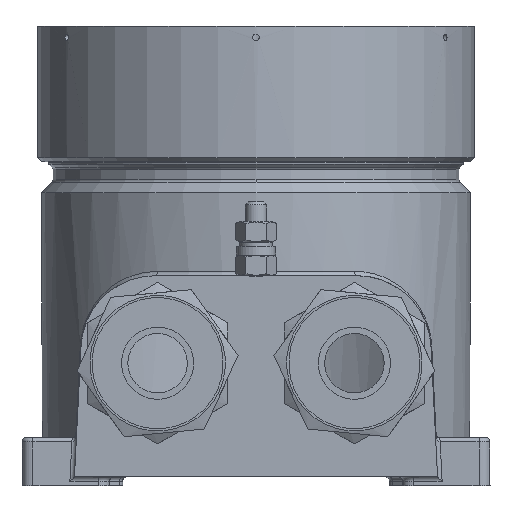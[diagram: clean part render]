
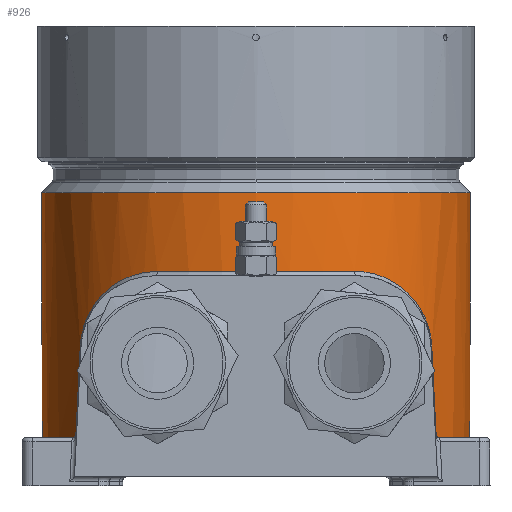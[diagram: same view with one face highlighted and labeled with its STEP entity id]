
A CAD part, left-side view. The second image highlights one B-rep face of the part: STEP entity #926.
In plain terms, the highlighted cylindrical face has radius 49 mm (diameter 98 mm), a full revolution.
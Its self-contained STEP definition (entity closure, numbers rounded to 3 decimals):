
#926=ADVANCED_FACE('',(#9071,#9073),#9075,.T.);
#9071=FACE_BOUND('',#9072,.T.);
#9072=EDGE_LOOP('',(#16522,#16523,#16524,#16525,#16526,#16527,#16528,#16529,#16530,
#16531,#16532));
#9073=FACE_OUTER_BOUND('',#9074,.T.);
#9074=EDGE_LOOP('',(#16533));
#9075=CYLINDRICAL_SURFACE('',#9076,49.);
#9076=AXIS2_PLACEMENT_3D('',#9077,#9078,#9079);
#9077=CARTESIAN_POINT('',(0.,0.,8.));
#9078=DIRECTION('',(0.,0.,1.));
#9079=DIRECTION('',(-1.,0.,0.));
#16522=ORIENTED_EDGE('',*,*,#20413,.F.);
#16523=ORIENTED_EDGE('',*,*,#20414,.T.);
#16524=ORIENTED_EDGE('',*,*,#20415,.F.);
#16525=ORIENTED_EDGE('',*,*,#20185,.F.);
#16526=ORIENTED_EDGE('',*,*,#20300,.F.);
#16527=ORIENTED_EDGE('',*,*,#20299,.F.);
#16528=ORIENTED_EDGE('',*,*,#20296,.F.);
#16529=ORIENTED_EDGE('',*,*,#20416,.F.);
#16530=ORIENTED_EDGE('',*,*,#20417,.T.);
#16531=ORIENTED_EDGE('',*,*,#20418,.F.);
#16532=ORIENTED_EDGE('',*,*,#20419,.T.);
#16533=ORIENTED_EDGE('',*,*,#20420,.T.);
#20185=EDGE_CURVE('',#22333,#22334,#22335,.T.);
#20296=EDGE_CURVE('',#22518,#22519,#22520,.T.);
#20299=EDGE_CURVE('',#22519,#22523,#22524,.F.);
#20300=EDGE_CURVE('',#22523,#22333,#22525,.F.);
#20413=EDGE_CURVE('',#22715,#22716,#22717,.F.);
#20414=EDGE_CURVE('',#22715,#22718,#22719,.T.);
#20415=EDGE_CURVE('',#22334,#22718,#22720,.F.);
#20416=EDGE_CURVE('',#22721,#22518,#22722,.F.);
#20417=EDGE_CURVE('',#22721,#22723,#22724,.T.);
#20418=EDGE_CURVE('',#22725,#22723,#22726,.F.);
#20419=EDGE_CURVE('',#22725,#22716,#22727,.T.);
#20420=EDGE_CURVE('',#22728,#22728,#22729,.F.);
#22333=VERTEX_POINT('',#26525);
#22334=VERTEX_POINT('',#26526);
#22335=B_SPLINE_CURVE_WITH_KNOTS('',3,
(#26527,#26528,#26529,#26530,#26531,#26532,#26533,#26534,#26535,#26536,#26537,#26538,
#26539,#26540,#26541,#26542,#26543,#26544,#26545,#26546,#26547),
.UNSPECIFIED.,.F.,.F.,
(4,1,1,1,1,1,1,1,1,1,1,1,1,1,1,1,1,1,4),
(0.,0.091,0.177,0.256,0.326,0.392,
0.455,0.516,0.573,0.628,0.678,
0.724,0.769,0.814,0.856,0.896,
0.938,0.972,1.),
.UNSPECIFIED.);
#22518=VERTEX_POINT('',#27449);
#22519=VERTEX_POINT('',#27450);
#22520=B_SPLINE_CURVE_WITH_KNOTS('',3,
(#27451,#27452,#27453,#27454,#27455,#27456,#27457,#27458,#27459,#27460,#27461,#27462,
#27463,#27464,#27465,#27466,#27467,#27468,#27469,#27470,#27471,#27472,#27473,#27474,
#27475,#27476,#27477),
.UNSPECIFIED.,.F.,.F.,
(4,1,1,1,1,1,1,1,1,1,1,1,1,1,1,1,1,1,1,1,1,1,1,1,4),
(0.,0.009,0.018,0.026,0.034,
0.045,0.061,0.084,0.114,0.152,
0.192,0.237,0.283,0.332,0.386,
0.442,0.504,0.569,0.637,0.708,
0.779,0.846,0.919,0.969,1.),
.UNSPECIFIED.);
#22523=VERTEX_POINT('',#27489);
#22524=CIRCLE('',#27490,49.);
#22525=CIRCLE('',#27494,49.);
#22715=VERTEX_POINT('',#28185);
#22716=VERTEX_POINT('',#28186);
#22717=CIRCLE('',#28187,49.);
#22718=VERTEX_POINT('',#28191);
#22719=CIRCLE('',#28192,49.);
#22720=(BOUNDED_CURVE()B_SPLINE_CURVE(3,
(#28196,#28197,#28198,#28199),
.UNSPECIFIED.,.F.,.F.)B_SPLINE_CURVE_WITH_KNOTS((4,4),
(0.,1.),
.UNSPECIFIED.)CURVE()GEOMETRIC_REPRESENTATION_ITEM()RATIONAL_B_SPLINE_CURVE((1.,
1.,1.,1.))REPRESENTATION_ITEM(''));
#22721=VERTEX_POINT('',#28200);
#22722=(BOUNDED_CURVE()B_SPLINE_CURVE(3,
(#28201,#28202,#28203,#28204),
.UNSPECIFIED.,.F.,.F.)B_SPLINE_CURVE_WITH_KNOTS((4,4),
(0.,1.),
.UNSPECIFIED.)CURVE()GEOMETRIC_REPRESENTATION_ITEM()RATIONAL_B_SPLINE_CURVE((1.,
1.,1.,1.))REPRESENTATION_ITEM(''));
#22723=VERTEX_POINT('',#28205);
#22724=CIRCLE('',#28206,49.);
#22725=VERTEX_POINT('',#28210);
#22726=CIRCLE('',#28211,49.);
#22727=CIRCLE('',#28215,49.);
#22728=VERTEX_POINT('',#28219);
#22729=CIRCLE('',#28220,49.);
#26525=CARTESIAN_POINT('',(-43.493,22.568,47.));
#26526=CARTESIAN_POINT('',(-28.037,40.186,29.899));
#26527=CARTESIAN_POINT('',(-43.493,22.568,47.));
#26528=CARTESIAN_POINT('',(-43.054,23.416,47.));
#26529=CARTESIAN_POINT('',(-42.151,25.037,46.879));
#26530=CARTESIAN_POINT('',(-40.74,27.264,46.397));
#26531=CARTESIAN_POINT('',(-39.377,29.19,45.722));
#26532=CARTESIAN_POINT('',(-38.089,30.846,44.927));
#26533=CARTESIAN_POINT('',(-36.872,32.289,44.051));
#26534=CARTESIAN_POINT('',(-35.702,33.576,43.095));
#26535=CARTESIAN_POINT('',(-34.586,34.721,42.076));
#26536=CARTESIAN_POINT('',(-33.534,35.737,41.006));
#26537=CARTESIAN_POINT('',(-32.569,36.617,39.915));
#26538=CARTESIAN_POINT('',(-31.705,37.365,38.827));
#26539=CARTESIAN_POINT('',(-30.93,38.009,37.734));
#26540=CARTESIAN_POINT('',(-30.23,38.566,36.618));
#26541=CARTESIAN_POINT('',(-29.605,39.048,35.461));
#26542=CARTESIAN_POINT('',(-29.076,39.443,34.293));
#26543=CARTESIAN_POINT('',(-28.639,39.76,33.094));
#26544=CARTESIAN_POINT('',(-28.322,39.986,31.927));
#26545=CARTESIAN_POINT('',(-28.127,40.124,30.85));
#26546=CARTESIAN_POINT('',(-28.057,40.172,30.193));
#26547=CARTESIAN_POINT('',(-28.037,40.186,29.899));
#27449=CARTESIAN_POINT('',(-28.037,-40.186,29.899));
#27450=CARTESIAN_POINT('',(-43.493,-22.568,47.));
#27451=CARTESIAN_POINT('',(-28.037,-40.186,29.899));
#27452=CARTESIAN_POINT('',(-28.047,-40.179,29.999));
#27453=CARTESIAN_POINT('',(-28.064,-40.167,30.187));
#27454=CARTESIAN_POINT('',(-28.09,-40.149,30.458));
#27455=CARTESIAN_POINT('',(-28.119,-40.129,30.719));
#27456=CARTESIAN_POINT('',(-28.161,-40.099,31.006));
#27457=CARTESIAN_POINT('',(-28.222,-40.056,31.369));
#27458=CARTESIAN_POINT('',(-28.325,-39.984,31.883));
#27459=CARTESIAN_POINT('',(-28.497,-39.862,32.583));
#27460=CARTESIAN_POINT('',(-28.776,-39.661,33.487));
#27461=CARTESIAN_POINT('',(-29.175,-39.369,34.525));
#27462=CARTESIAN_POINT('',(-29.697,-38.978,35.642));
#27463=CARTESIAN_POINT('',(-30.326,-38.491,36.781));
#27464=CARTESIAN_POINT('',(-31.054,-37.908,37.92));
#27465=CARTESIAN_POINT('',(-31.881,-37.216,39.06));
#27466=CARTESIAN_POINT('',(-32.802,-36.409,40.191));
#27467=CARTESIAN_POINT('',(-33.828,-35.46,41.318));
#27468=CARTESIAN_POINT('',(-34.946,-34.361,42.419));
#27469=CARTESIAN_POINT('',(-36.15,-33.096,43.477));
#27470=CARTESIAN_POINT('',(-37.405,-31.673,44.451));
#27471=CARTESIAN_POINT('',(-38.679,-30.106,45.309));
#27472=CARTESIAN_POINT('',(-39.916,-28.446,46.005));
#27473=CARTESIAN_POINT('',(-41.124,-26.672,46.54));
#27474=CARTESIAN_POINT('',(-42.158,-24.999,46.856));
#27475=CARTESIAN_POINT('',(-42.947,-23.603,46.981));
#27476=CARTESIAN_POINT('',(-43.344,-22.855,47.));
#27477=CARTESIAN_POINT('',(-43.493,-22.568,47.));
#27489=CARTESIAN_POINT('',(-49.,0.,47.));
#27490=AXIS2_PLACEMENT_3D('',#27491,#27492,#27493);
#27491=CARTESIAN_POINT('',(0.,0.,47.));
#27492=DIRECTION('',(0.,0.,1.));
#27493=DIRECTION('',(-1.,0.,0.));
#27494=AXIS2_PLACEMENT_3D('',#27495,#27496,#27497);
#27495=CARTESIAN_POINT('',(0.,0.,47.));
#27496=DIRECTION('',(0.,0.,1.));
#27497=DIRECTION('',(-0.888,0.461,0.));
#28185=CARTESIAN_POINT('',(27.695,40.423,9.));
#28186=CARTESIAN_POINT('',(40.423,27.695,9.));
#28187=AXIS2_PLACEMENT_3D('',#28188,#28189,#28190);
#28188=CARTESIAN_POINT('',(0.,0.,9.));
#28189=DIRECTION('',(0.,0.,1.));
#28190=DIRECTION('',(0.825,0.565,0.));
#28191=CARTESIAN_POINT('',(-26.509,41.21,9.));
#28192=AXIS2_PLACEMENT_3D('',#28193,#28194,#28195);
#28193=CARTESIAN_POINT('',(0.,0.,9.));
#28194=DIRECTION('',(0.,0.,1.));
#28195=DIRECTION('',(0.565,0.825,0.));
#28196=CARTESIAN_POINT('',(-26.509,41.21,9.));
#28197=CARTESIAN_POINT('',(-27.025,40.878,15.771));
#28198=CARTESIAN_POINT('',(-27.534,40.537,22.738));
#28199=CARTESIAN_POINT('',(-28.037,40.186,29.899));
#28200=CARTESIAN_POINT('',(-26.509,-41.21,9.));
#28201=CARTESIAN_POINT('',(-28.037,-40.186,29.899));
#28202=CARTESIAN_POINT('',(-27.534,-40.537,22.738));
#28203=CARTESIAN_POINT('',(-27.025,-40.878,15.771));
#28204=CARTESIAN_POINT('',(-26.509,-41.21,9.));
#28205=CARTESIAN_POINT('',(27.695,-40.423,9.));
#28206=AXIS2_PLACEMENT_3D('',#28207,#28208,#28209);
#28207=CARTESIAN_POINT('',(0.,0.,9.));
#28208=DIRECTION('',(0.,0.,1.));
#28209=DIRECTION('',(-0.541,-0.841,0.));
#28210=CARTESIAN_POINT('',(40.423,-27.695,9.));
#28211=AXIS2_PLACEMENT_3D('',#28212,#28213,#28214);
#28212=CARTESIAN_POINT('',(0.,0.,9.));
#28213=DIRECTION('',(0.,0.,1.));
#28214=DIRECTION('',(0.565,-0.825,0.));
#28215=AXIS2_PLACEMENT_3D('',#28216,#28217,#28218);
#28216=CARTESIAN_POINT('',(0.,0.,9.));
#28217=DIRECTION('',(0.,0.,1.));
#28218=DIRECTION('',(0.825,-0.565,0.));
#28219=CARTESIAN_POINT('',(-49.,0.,65.));
#28220=AXIS2_PLACEMENT_3D('',#28221,#28222,#28223);
#28221=CARTESIAN_POINT('',(0.,0.,65.));
#28222=DIRECTION('',(0.,0.,1.));
#28223=DIRECTION('',(-1.,0.,0.));
